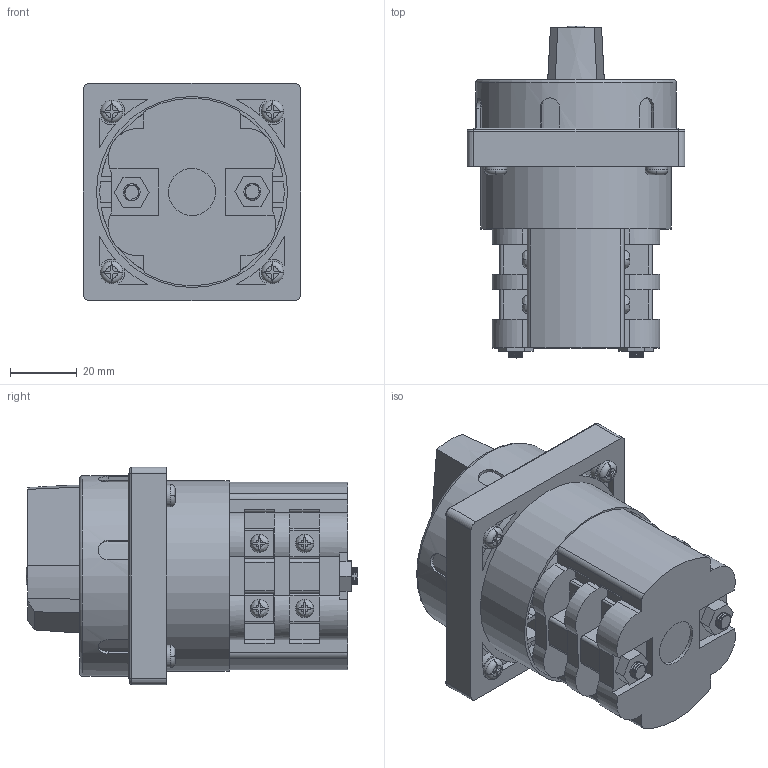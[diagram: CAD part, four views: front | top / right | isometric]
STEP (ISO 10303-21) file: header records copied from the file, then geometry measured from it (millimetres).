
FILE_DESCRIPTION(/* description */ (''),/* implementation_level */ '2;1');
FILE_NAME(/* name */ '4G16,25_S6_2_korpusy.stp',/* time_stamp */ '2021-07-21T09:24:24+02:00',/* author */ (''),/* organization */ (''),/* preprocessor_version */ 'ST-DEVELOPER v18.1',/* originating_system */ 'SIEMENS PLM Software NX 1965',/* authorisation */ '');
FILE_SCHEMA (('AUTOMOTIVE_DESIGN { 1 0 10303 214 3 1 1 1 }'));
Products named in the file (1): 4G16,25_S6_2_korpusy_stp
Bounding box: 65 x 99.1 x 65 mm (x, y, z)
Volume: 188558.9 mm3; surface area: 44630 mm2
Topology: 2 solids, 11 shells, 894 faces, 2492 edges, 1630 vertices
Faces by surface type: plane 487, cylinder 261, bspline 103, cone 22, torus 15, extrusion 6
Full cylindrical faces by diameter (mm): 2.9 x7, 3.1 x1, 4.3 x4, 5 x2, 5.4 x9, 5.6 x1, 6 x1, 6.7 x4, 7.2 x4, 8 x1, 14 x1, 55.8 x1, 57 x1, 58 x1, 60 x1
Entity records: 85075 total; most frequent: CARTESIAN_POINT 63352, ORIENTED_EDGE 4748, DIRECTION 3989, EDGE_CURVE 2374, VERTEX_POINT 1575, AXIS2_PLACEMENT_3D 1416, VECTOR 1157, LINE 1151
